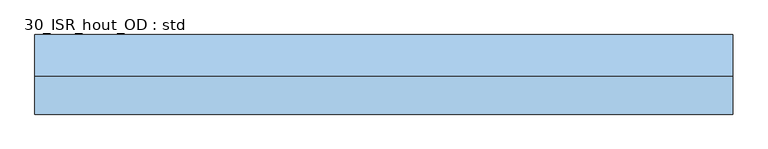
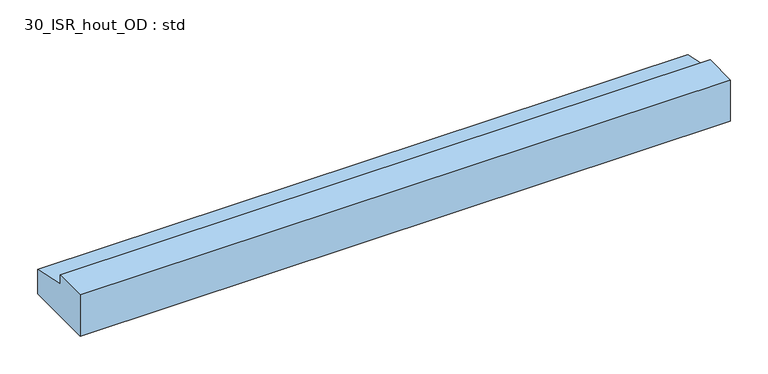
"""IFC4 building model written with IfcOpenShell, lengths in millimetres: window geometry, 30_ISR_hout_OD : std."""

from ifc_helpers import new_model, si_unit, frame, origin, place, context, project, spatial, polyline, outline, extrude, source, transform, mapped, element, save


def window_30_isr_hout_od_std_2e931616(model_context):
    return source(origin(), model_context, "Body", "SweptSolid", [
        extrude(outline(polyline([(0.0, 67.0), (54.0, 67.0), (54.0, 52.0), (114.0, 39.2466063), (114.0, 0.0), (0.0, 0.0), (0.0, 67.0)])), frame((0.0, 0.0, 0.0), z_axis=(1.0, 0.0, 0.0), x_axis=(0.0, 1.0, 0.0)), (0.0, 0.0, 1.0), 1000.0),
    ])


if __name__ == "__main__":
    model = new_model("IFC4")
    model_context = context("Model", 3, world=origin())
    ifc_project = project(units=[si_unit("LENGTHUNIT", "METRE", prefix="MILLI")], contexts=[model_context])
    site = spatial("IfcSite", under=ifc_project)
    building = spatial("IfcBuilding", under=site)
    placement = place(None, origin())
    window_30_isr_hout_od_std_shape = window_30_isr_hout_od_std_2e931616(model_context)
    element("IfcWindow", 1, ObjectType="30_ISR_hout_OD : std", at=placement, inside=building, context=model_context, shape_type="MappedRepresentation", body=[
        mapped(window_30_isr_hout_od_std_shape, transform((0.0, 0.0, 0.0), x_axis=(1.0, 0.0, 0.0), y_axis=(0.0, 1.0, 0.0), z_axis=(0.0, 0.0, 1.0))),
    ])
    save(model, "model.ifc")
